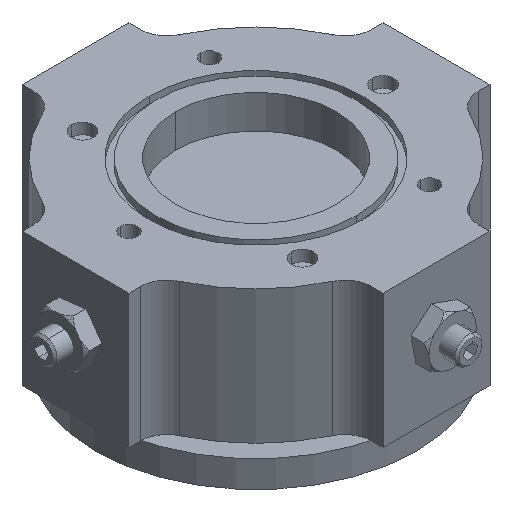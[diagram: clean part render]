
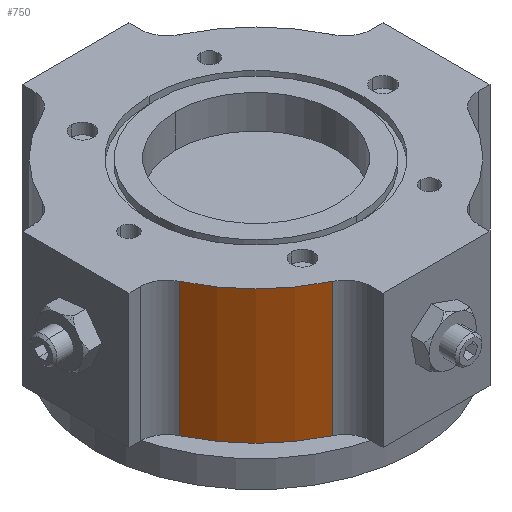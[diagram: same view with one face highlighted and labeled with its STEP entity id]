
A CAD part, isometric view. The second image highlights one B-rep face of the part: STEP entity #750.
In plain terms, the highlighted cylindrical face has radius 38.1 mm (diameter 76.2 mm), a partial arc.
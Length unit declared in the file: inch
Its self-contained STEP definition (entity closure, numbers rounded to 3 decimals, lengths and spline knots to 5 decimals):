
#118 = VERTEX_POINT ( 'NONE', #7286 ) ;
#136 = CIRCLE ( 'NONE', #1709, 1.5 ) ;
#302 = DIRECTION ( 'NONE',  ( 0., 0., -1. ) ) ;
#314 = ORIENTED_EDGE ( 'NONE', *, *, #4914, .T. ) ;
#322 = CARTESIAN_POINT ( 'NONE',  ( -1.35526, -0.64286, 0.3745 ) ) ;
#492 = DIRECTION ( 'NONE',  ( 0., 0., -1. ) ) ;
#596 = DIRECTION ( 'NONE',  ( 0., 0., -1. ) ) ;
#750 = ADVANCED_FACE ( 'Defeatured_1_18', ( #6895 ), #6274, .T. ) ;
#824 = CARTESIAN_POINT ( 'NONE',  ( -0.64286, -1.35526, 0.3745 ) ) ;
#1088 = CARTESIAN_POINT ( 'NONE',  ( 0., 0., 1.6245 ) ) ;
#1316 = VERTEX_POINT ( 'NONE', #322 ) ;
#1492 = LINE ( 'NONE', #1685, #1598 ) ;
#1598 = VECTOR ( 'NONE', #492, 39.37008 ) ;
#1685 = CARTESIAN_POINT ( 'NONE',  ( -0.64286, -1.35526, 1.6245 ) ) ;
#1709 = AXIS2_PLACEMENT_3D ( 'NONE', #3565, #302, #6866 ) ;
#1755 = DIRECTION ( 'NONE',  ( 0., 0., -1. ) ) ;
#1831 = ORIENTED_EDGE ( 'NONE', *, *, #4618, .F. ) ;
#2223 = DIRECTION ( 'NONE',  ( 0., 0., -1. ) ) ;
#2539 = EDGE_CURVE ( 'Defeatured_1_18+Defeatured_1_25+Defeatured_1_19+Defeatured_1_17', #118, #7086, #7872, .T. ) ;
#2605 = CARTESIAN_POINT ( 'NONE',  ( -1.35526, -0.64286, 1.6245 ) ) ;
#3076 = AXIS2_PLACEMENT_3D ( 'NONE', #1088, #1755, #3170 ) ;
#3170 = DIRECTION ( 'NONE',  ( 0., 1., 0. ) ) ;
#3565 = CARTESIAN_POINT ( 'NONE',  ( 0., 0., 0.3745 ) ) ;
#4060 = VECTOR ( 'NONE', #596, 39.37008 ) ;
#4258 = DIRECTION ( 'NONE',  ( 0., 1., 0. ) ) ;
#4265 = EDGE_LOOP ( 'NONE', ( #1831, #4655, #8433, #314 ) ) ;
#4360 = AXIS2_PLACEMENT_3D ( 'NONE', #8091, #2223, #4258 ) ;
#4618 = EDGE_CURVE ( 'Defeatured_1_26+Defeatured_1_18+Defeatured_1_19+Defeatured_1_17', #7802, #1316, #136, .T. ) ;
#4655 = ORIENTED_EDGE ( 'NONE', *, *, #7061, .F. ) ;
#4914 = EDGE_CURVE ( 'Defeatured_1_18+Defeatured_1_17+Defeatured_1_25+Defeatured_1_26', #7086, #1316, #5989, .T. ) ;
#5989 = LINE ( 'NONE', #2605, #4060 ) ;
#6274 = CYLINDRICAL_SURFACE ( 'NONE', #3076, 1.5 ) ;
#6866 = DIRECTION ( 'NONE',  ( 0., 1., 0. ) ) ;
#6895 = FACE_OUTER_BOUND ( 'NONE', #4265, .T. ) ;
#7061 = EDGE_CURVE ( 'Defeatured_1_19+Defeatured_1_18+Defeatured_1_25+Defeatured_1_26', #118, #7802, #1492, .T. ) ;
#7086 = VERTEX_POINT ( 'NONE', #8287 ) ;
#7286 = CARTESIAN_POINT ( 'NONE',  ( -0.64286, -1.35526, 1.6245 ) ) ;
#7802 = VERTEX_POINT ( 'NONE', #824 ) ;
#7872 = CIRCLE ( 'NONE', #4360, 1.5 ) ;
#8091 = CARTESIAN_POINT ( 'NONE',  ( 0., 0., 1.6245 ) ) ;
#8287 = CARTESIAN_POINT ( 'NONE',  ( -1.35526, -0.64286, 1.6245 ) ) ;
#8433 = ORIENTED_EDGE ( 'NONE', *, *, #2539, .T. ) ;
